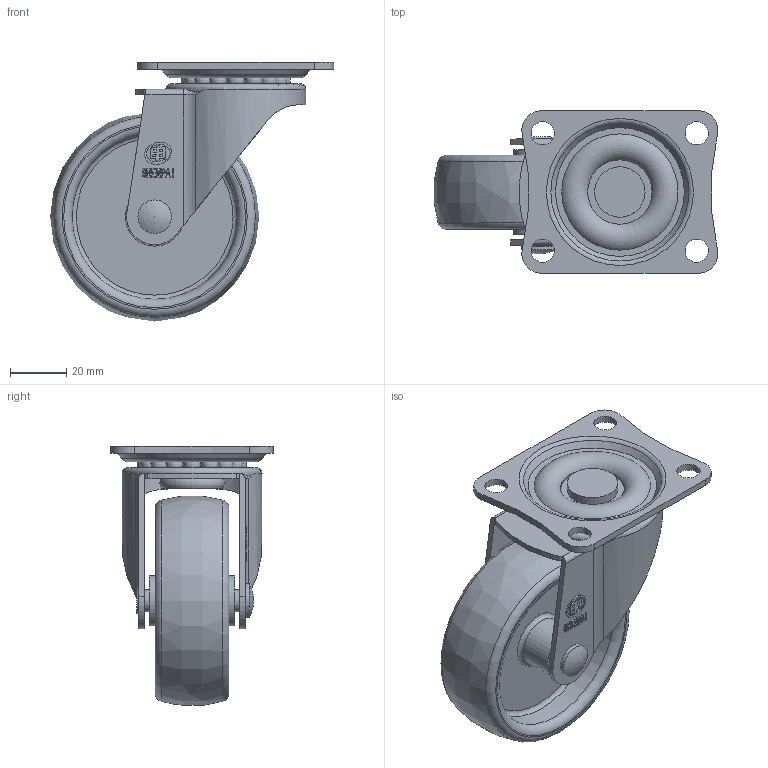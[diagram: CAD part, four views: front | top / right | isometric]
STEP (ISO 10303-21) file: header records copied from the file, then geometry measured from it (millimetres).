
FILE_DESCRIPTION(/* description */ (''),/* implementation_level */ '2;1');
FILE_NAME(/* name */ '10A22_3_F.stp',/* time_stamp */ '2022-10-06T13:48:40+08:00',/* author */ (''),/* organization */ (''),/* preprocessor_version */ 'ST-DEVELOPER v14',/* originating_system */ 'SIEMENS PLM Software NX 8.0',/* authorisation */ '');
FILE_SCHEMA (('AUTOMOTIVE_DESIGN { 1 0 10303 214 3 1 1 1 }'));
Length unit declared in the file: millimetre
Products named in the file (1): 10A22_3_F
Bounding box: 101.31 x 58 x 92.54 mm (x, y, z)
Volume: 83428.9 mm3; surface area: 44393.8 mm2
Topology: 1 solids, 2 shells, 334 faces, 924 edges, 617 vertices
Faces by surface type: plane 202, cylinder 68, torus 40, sphere 16, cone 6, bspline 2
Full cylindrical faces by diameter (mm): 6.4 x1, 8 x2, 8.3 x6, 12 x2, 12.2 x1, 14.5 x1, 15 x1, 18 x3, 23 x1, 59 x2
Entity records: 12813 total; most frequent: CARTESIAN_POINT 5190, ORIENTED_EDGE 1620, DIRECTION 1362, EDGE_CURVE 810, VERTEX_POINT 570, AXIS2_PLACEMENT_3D 543, EDGE_LOOP 467, ADVANCED_FACE 334
